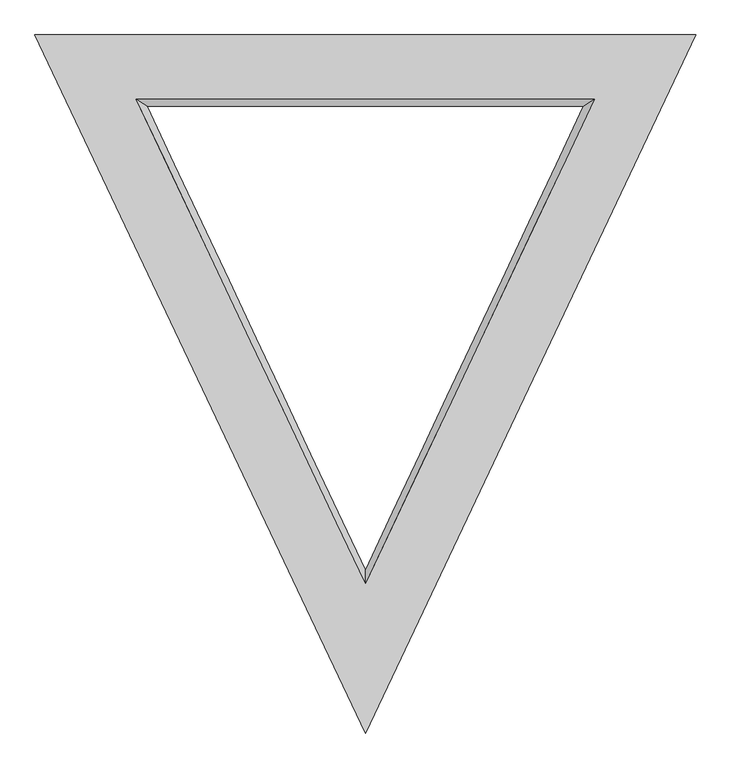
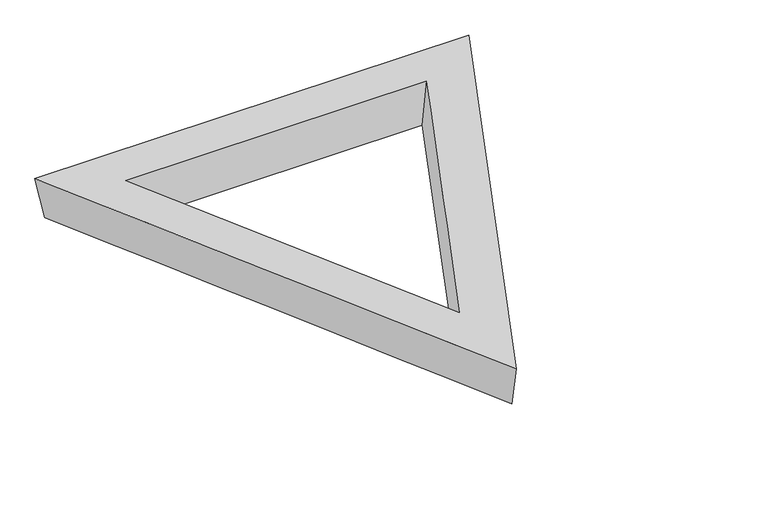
"""IFC4 building model written with IfcOpenShell, lengths in millimetres: plate geometry."""

from ifc_helpers import new_model, si_unit, frame, origin, place, context, project, spatial, source, transform, mapped, element, save
from ifc_brep_helpers import plane_surface, spline_surface, advanced_brep


def plate_e83785fe(model_context):
    return source(origin(), model_context, "Body", "AdvancedBrep", [
        advanced_brep(
        [(5405.1466992, 5592.8821835, 0.0), (5371.1283582, 5615.0364926, 199.0149123), (6096.0, 4084.5477873, 199.4716329), (6096.0, 4125.0079892, 0.0), (6820.8716418, 5615.0364926, 199.0149123), (6786.8533008, 5592.8821835, 0.0), (6096.0, 3647.8356331, 0.0), (7107.0697675, 5796.0821835, 0.0), (7141.9499004, 5818.2364836, 198.9542744), (6096.0, 3609.8254815, 199.6132971), (5084.9302325, 5796.0821835, 0.0), (5050.0500996, 5818.2364836, 198.9542744)],
        [
            (0, 1),
            (1, 2),
            (2, 3),
            (3, 0),
            (2, 4),
            (4, 5),
            (5, 3),
            (0, 5),
            (4, 1),
            (6, 7),
            (7, 8),
            (8, 9),
            (9, 6),
            (7, 10),
            (10, 11),
            (11, 8),
            (9, 11),
            (10, 6),
        ],
        [
            spline_surface(1, 1, [[(5405.1466992, 5592.8821835, 0.0), (6096.0, 4125.0079892, 0.0)], [(5371.1283582, 5615.0364926, 199.0149123), (6096.0, 4084.5477873, 199.4716329)]], [2, 2], [2, 2], [0.0, 1.0], [0.0, 1.0]),
            spline_surface(1, 1, [[(6096.0, 4125.0079892, 0.0), (6786.8533008, 5592.8821835, 0.0)], [(6096.0, 4084.5477873, 199.4716329), (6820.8716418, 5615.0364926, 199.0149123)]], [2, 2], [2, 2], [0.0, 1.0], [0.0, 1.0]),
            plane_surface(frame((6096.0, 5592.8821835, 0.0), z_axis=(0.0, -0.9938609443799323, 0.1106364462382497), x_axis=(-1.0, 0.0, 6.625215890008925e-12))),
            spline_surface(1, 1, [[(6096.0, 3647.8356331, 0.0), (6096.0, 3609.8254815, 199.6132971)], [(7107.0697675, 5796.0821835, 0.0), (7141.9499004, 5818.2364836, 198.9542744)]], [2, 2], [2, 2], [0.0, 1.0], [0.0, 1.0]),
            plane_surface(frame((6096.0, 5796.0821835, 0.0), z_axis=(0.0, 0.9938572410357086, -0.11066970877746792), x_axis=(-1.0, 0.0, 6.625243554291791e-12))),
            spline_surface(1, 1, [[(5084.9302325, 5796.0821835, 0.0), (5050.0500996, 5818.2364836, 198.9542744)], [(6096.0, 3647.8356331, 0.0), (6096.0, 3609.8254815, 199.6132971)]], [2, 2], [2, 2], [0.0, 1.0], [0.0, 1.0]),
            plane_surface(frame((6096.0, 5082.0994829, 199.1739487), z_axis=(6.625243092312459e-12, 0.00029841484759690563, 0.9999999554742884), x_axis=(0.4280396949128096, -0.9037598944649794, 0.000269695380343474))),
            plane_surface(frame((6096.0, 5080.0, 0.0), z_axis=(-6.6252508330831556e-12, 0.0, -1.0), x_axis=(-0.4258419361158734, 0.9047975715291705, 2.8213275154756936e-12))),
        ],
        [
            (0, [[1, 2, 3, 4]]),
            (1, [[-3, 5, 6, 7]]),
            (2, [[-1, 8, -6, 9]]),
            (3, [[10, 11, 12, 13]]),
            (4, [[-11, 14, 15, 16]]),
            (5, [[-13, 17, -15, 18]]),
            (6, [[-12, -16, -17], [-2, -9, -5]]),
            (7, [[-10, -18, -14], [-4, -7, -8]]),
        ],
    ),
    ])


if __name__ == "__main__":
    model = new_model("IFC4")
    model_context = context("Model", 3, world=origin())
    ifc_project = project(units=[si_unit("LENGTHUNIT", "METRE", prefix="MILLI")], contexts=[model_context])
    site = spatial("IfcSite", under=ifc_project)
    building = spatial("IfcBuilding", under=site)
    placement = place(None, origin())
    plate_shape = plate_e83785fe(model_context)
    element("IfcPlate", 1, ObjectType="tn_cpanel_patbase_triangle_flat_seamless_frame_02_cylinder : tn_cpanel_pattern_mullion_t8\"xh8\"", at=placement, inside=building, context=model_context, shape_type="MappedRepresentation", body=[
        mapped(plate_shape, transform((0.0, 0.0, 0.0), x_axis=(1.0, 0.0, 0.0), y_axis=(0.0, 1.0, 0.0), z_axis=(0.0, 0.0, 1.0))),
    ])
    save(model, "model.ifc")
